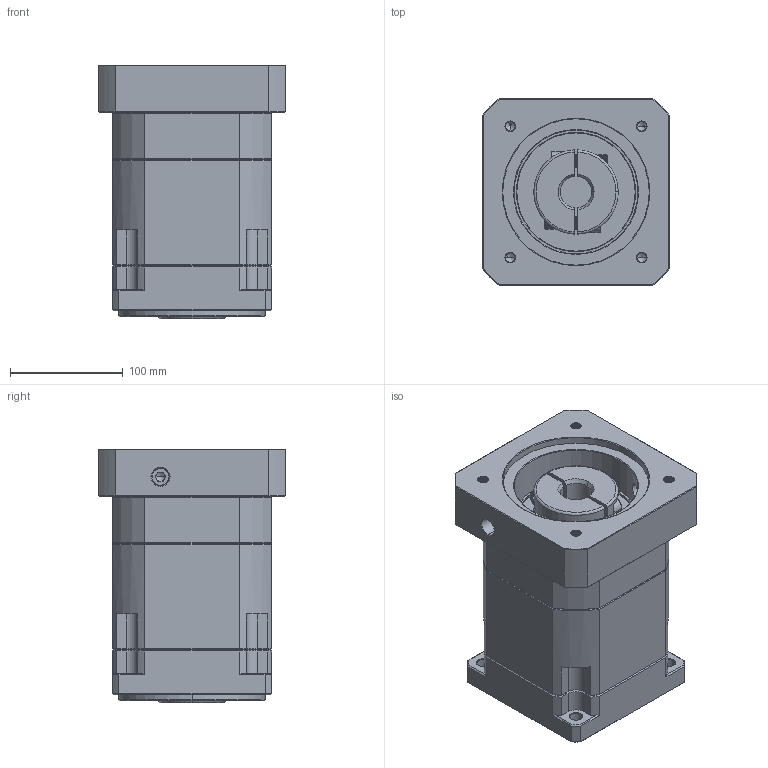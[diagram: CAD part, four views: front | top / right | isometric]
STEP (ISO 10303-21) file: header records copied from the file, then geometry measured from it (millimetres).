
FILE_DESCRIPTION (( 'STEP AP214' ), '1' );
FILE_NAME ('ZB142A-K35-L2-P2-28-130-165-M10.step', '2023-09-01T11:46:56', ( '' ), ( '' ), 'SwSTEP 2.0', 'SolidWorks 2016', '' );
FILE_SCHEMA (( 'AUTOMOTIVE_DESIGN' ));
Length unit declared in the file: millimetre
Products named in the file (1): ZB142A-K35-L2-P2-28-130-165-M10
Bounding box: 166 x 166 x 225.2 mm (x, y, z)
Volume: 4034154.6 mm3; surface area: 311476.7 mm2
Topology: 6 solids, 6 shells, 2259 faces, 6059 edges, 3906 vertices
Faces by surface type: plane 1095, bspline 404, cylinder 395, cone 345, torus 20
Entity records: 122778 total; most frequent: CARTESIAN_POINT 44480, ORIENTED_EDGE 12062, DIRECTION 9594, EDGE_CURVE 6031, VERTEX_POINT 3906, VECTOR 3844, LINE 3844, AXIS2_PLACEMENT_3D 2875
